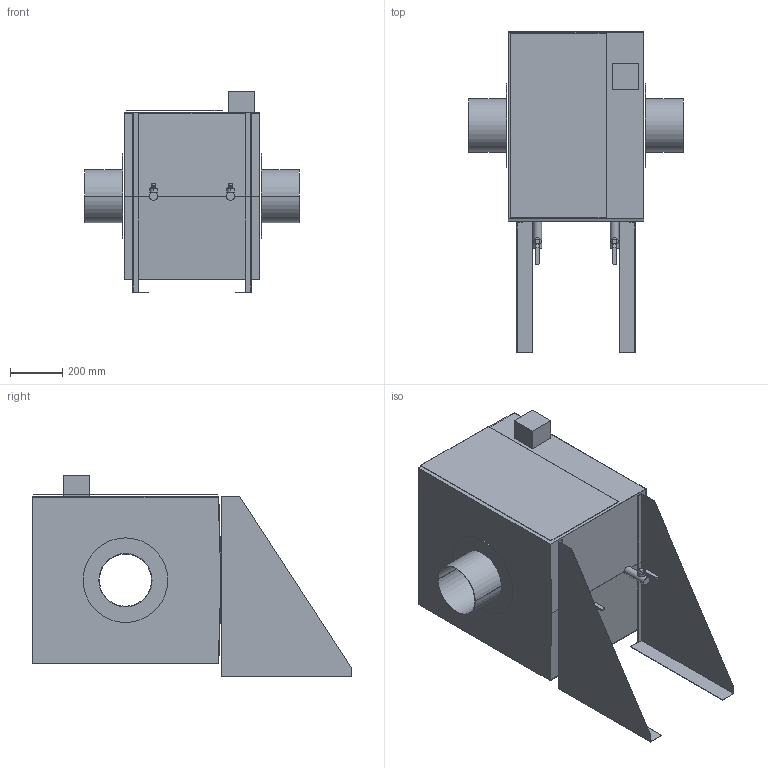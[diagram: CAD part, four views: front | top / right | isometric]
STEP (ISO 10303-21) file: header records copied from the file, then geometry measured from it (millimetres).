
FILE_DESCRIPTION((''),'2;1');
FILE_NAME('52234769','2024-04-19T12:43:30',('ged'),('HUBER SE'),'CREO PARAMETRIC BY PTC INC, 2022162','CREO PARAMETRIC BY PTC INC, 2022162','');
FILE_SCHEMA(('AUTOMOTIVE_DESIGN { 1 0 10303 214 1 1 1 1 }'));
Length unit declared in the file: millimetre
Products named in the file (1): 52234769
Bounding box: 820 x 1225 x 772 mm (x, y, z)
Volume: 7587250.6 mm3; surface area: 6651093.9 mm2
Topology: 12 solids, 12 shells, 105 faces, 224 edges, 148 vertices
Faces by surface type: plane 75, cylinder 26, cone 4
Entity records: 3357 total; most frequent: DIRECTION 490, CARTESIAN_POINT 479, ORIENTED_EDGE 448, EDGE_CURVE 224, VECTOR 168, LINE 168, AXIS2_PLACEMENT_3D 161, VERTEX_POINT 148
